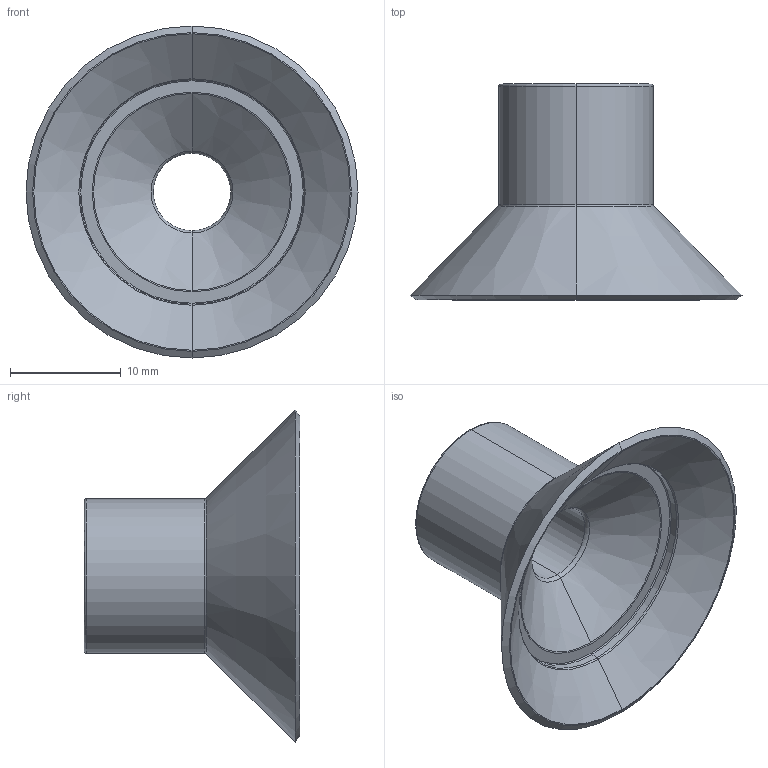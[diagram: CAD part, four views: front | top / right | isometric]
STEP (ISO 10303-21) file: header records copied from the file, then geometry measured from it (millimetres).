
FILE_DESCRIPTION (( 'STEP AP203' ), '1' );
FILE_NAME ('78_30--A.STEP', '2016-09-30T06:47:10', ( '' ), ( '' ), 'SwSTEP 2.0', 'SolidWorks 2016', '' );
FILE_SCHEMA (( 'CONFIG_CONTROL_DESIGN' ));
Length unit declared in the file: millimetre
Products named in the file (1): 78_30--A
Bounding box: 30 x 19.5 x 30 mm (x, y, z)
Volume: 2468.9 mm3; surface area: 2496.4 mm2
Topology: 1 solids, 1 shells, 29 faces, 58 edges, 32 vertices
Faces by surface type: torus 12, cone 8, cylinder 6, plane 3
Entity records: 837 total; most frequent: DIRECTION 162, CARTESIAN_POINT 120, ORIENTED_EDGE 116, AXIS2_PLACEMENT_3D 74, EDGE_CURVE 58, CIRCLE 44, VERTEX_POINT 32, EDGE_LOOP 32
